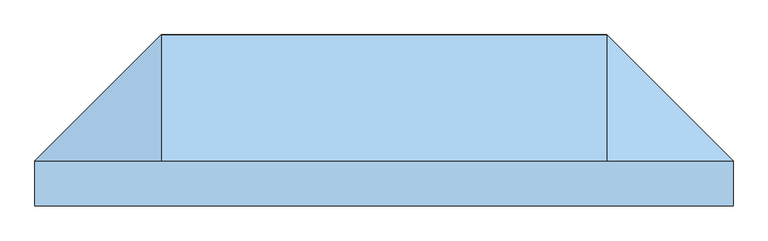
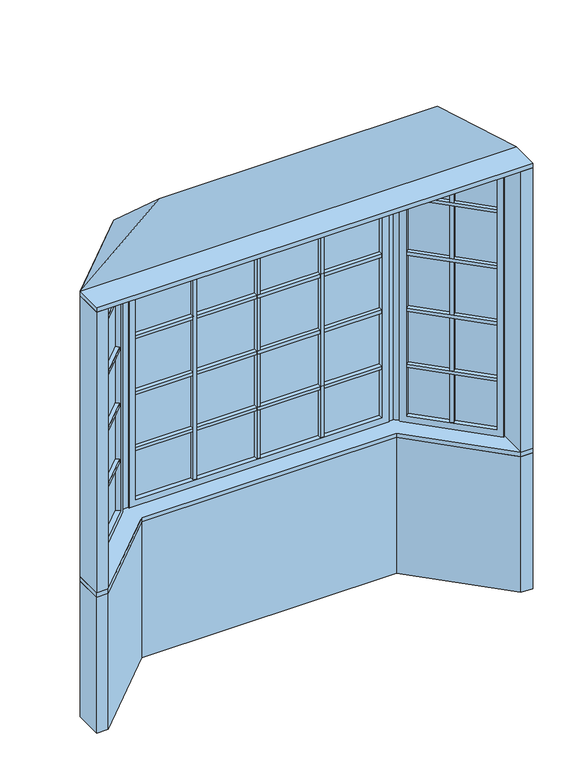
"""IFC4 building model written with IfcOpenShell, lengths in millimetres: window geometry, Pollard_Windows_Tudor Casement Bows and Bays : AML-BAY 45 AFR0616-12-500_GC."""

from ifc_helpers import new_model, si_unit, frame, origin, origin_with_axes, place, context, project, spatial, polyline, outline, extrude, faceted_brep, source, transform, mapped, element, save


def window_401ed5cd(model_context):
    return source(origin(), model_context, "Body", "SolidModel", [
        extrude(outline(polyline([(809.3614193, 437.1108753), (1117.1725202, 129.2997743), (1101.616171, 113.7434252), (793.8050701, 421.5545261), (809.3614193, 437.1108753)])), frame((0.0, 0.0, 1110.998), z_axis=(0.0, 0.0, 1.0), x_axis=(1.0, 0.0, 0.0)), (0.0, 0.0, 1.0), 18.0),
        extrude(outline(polyline([(790.2129677, 417.9624236), (1098.0240686, 110.1513227), (1082.4677194, 94.5949735), (774.6566185, 402.4060744), (790.2129677, 417.9624236)])), frame((0.0, 0.0, 1110.998), z_axis=(0.0, 0.0, 1.0), x_axis=(1.0, 0.0, 0.0)), (0.0, 0.0, 1.0), 18.0),
        extrude(outline(polyline([(809.3614193, 437.1108753), (1117.1725202, 129.2997743), (1101.616171, 113.7434252), (793.8050701, 421.5545261), (809.3614193, 437.1108753)])), frame((0.0, 0.0, 1430.998), z_axis=(0.0, 0.0, 1.0), x_axis=(1.0, 0.0, 0.0)), (0.0, 0.0, 1.0), 18.0),
        extrude(outline(polyline([(790.2129677, 417.9624236), (1098.0240686, 110.1513227), (1082.4677194, 94.5949735), (774.6566185, 402.4060744), (790.2129677, 417.9624236)])), frame((0.0, 0.0, 1430.998), z_axis=(0.0, 0.0, 1.0), x_axis=(1.0, 0.0, 0.0)), (0.0, 0.0, 1.0), 18.0),
        extrude(outline(polyline([(809.3614193, 437.1108753), (1117.1725202, 129.2997743), (1101.616171, 113.7434252), (793.8050701, 421.5545261), (809.3614193, 437.1108753)])), frame((0.0, 0.0, 1750.998), z_axis=(0.0, 0.0, 1.0), x_axis=(1.0, 0.0, 0.0)), (0.0, 0.0, 1.0), 18.0),
        extrude(outline(polyline([(790.2129677, 417.9624236), (1098.0240686, 110.1513227), (1082.4677194, 94.5949735), (774.6566185, 402.4060744), (790.2129677, 417.9624236)])), frame((0.0, 0.0, 1750.998), z_axis=(0.0, 0.0, 1.0), x_axis=(1.0, 0.0, 0.0)), (0.0, 0.0, 1.0), 18.0),
        extrude(outline(polyline([(809.3614193, 437.1108753), (1117.1725202, 129.2997743), (1101.616171, 113.7434252), (793.8050701, 421.5545261), (809.3614193, 437.1108753)])), frame((0.0, 0.0, 2070.998), z_axis=(0.0, 0.0, 1.0), x_axis=(1.0, 0.0, 0.0)), (0.0, 0.0, 1.0), 18.0),
        extrude(outline(polyline([(790.2129677, 417.9624236), (1098.0240686, 110.1513227), (1082.4677194, 94.5949735), (774.6566185, 402.4060744), (790.2129677, 417.9624236)])), frame((0.0, 0.0, 2070.998), z_axis=(0.0, 0.0, 1.0), x_axis=(1.0, 0.0, 0.0)), (0.0, 0.0, 1.0), 18.0),
        extrude(outline(polyline([(954.0745816, 261.2850146), (941.3466595, 274.0129366), (956.9030087, 289.5692858), (969.6309308, 276.8413638), (954.0745816, 261.2850146)])), frame((0.0, 0.0, 835.8628), z_axis=(0.0, 0.0, 1.0), x_axis=(1.0, 0.0, 0.0)), (0.0, 0.0, 1.0), 1528.2704),
        extrude(outline(polyline([(950.4824791, 257.6929121), (934.92613, 242.1365629), (922.1982079, 254.864485), (937.7545571, 270.4208342), (950.4824791, 257.6929121)])), frame((0.0, 0.0, 835.8628), z_axis=(0.0, 0.0, 1.0), x_axis=(1.0, 0.0, 0.0)), (0.0, 0.0, 1.0), 1528.2704),
        extrude(outline(polyline([(1110.5964271, 104.763169), (1107.0043247, 101.1710666), (781.2327115, 426.9426797), (784.824814, 430.5347822), (1110.5964271, 104.763169)])), frame((0.0, 0.0, 823.1628), z_axis=(0.0, 0.0, 1.0), x_axis=(1.0, 0.0, 0.0)), (0.0, 0.0, 1.0), 1553.6704),
        faceted_brep([(1101.616171, 113.7434252, 835.8628), (1101.616171, 113.7434252, 2364.1332), (1119.5766833, 131.7039374, 2364.1332), (1119.5766833, 131.7039374, 835.8628), (1107.0043247, 101.1710666, 823.1628), (1107.0043247, 101.1710666, 2376.8332), (1110.5964271, 104.763169, 2376.8332), (1110.5964271, 104.763169, 823.1628), (1080.0635563, 92.1908105, 835.8628), (1080.0635563, 92.1908105, 2364.1332), (1098.0240686, 110.1513227, 2364.1332), (1098.0240686, 110.1513227, 835.8628), (1144.9369265, 106.3436941, 799.998), (1144.9369265, 106.3436941, 2399.998), (1105.4237996, 66.8305672, 2399.998), (1105.4237996, 66.8305672, 799.998), (793.8050701, 421.5545261, 2364.1332), (811.7655823, 439.5150383, 2364.1332), (781.2327115, 426.9426797, 2376.8332), (784.824814, 430.5347822, 2376.8332), (772.2524554, 400.0019114, 2364.1332), (790.2129677, 417.9624236, 2364.1332), (786.4053391, 464.8752816, 2399.998), (746.8922121, 425.3621547, 2399.998), (793.8050701, 421.5545261, 835.8628), (811.7655823, 439.5150383, 835.8628), (781.2327115, 426.9426797, 823.1628), (784.824814, 430.5347822, 823.1628), (772.2524554, 400.0019114, 835.8628), (790.2129677, 417.9624236, 835.8628), (786.4053391, 464.8752816, 799.998), (746.8922121, 425.3621547, 799.998)], [[[0, 1, 2, 3]], [[4, 5, 6, 7]], [[8, 9, 10, 11]], [[12, 13, 14, 15]], [[1, 16, 17, 2]], [[5, 18, 19, 6]], [[9, 20, 21, 10]], [[13, 22, 23, 14]], [[16, 24, 25, 17]], [[18, 26, 27, 19]], [[20, 28, 29, 21]], [[22, 30, 31, 23]], [[24, 0, 3, 25]], [[7, 6, 19, 27], [1, 0, 24, 16]], [[26, 4, 7, 27]], [[5, 4, 26, 18], [11, 10, 21, 29]], [[28, 8, 11, 29]], [[15, 14, 23, 31], [9, 8, 28, 20]], [[30, 12, 15, 31]], [[13, 12, 30, 22], [3, 2, 17, 25]]]),
        extrude(outline(polyline([(352.4427, 474.8306207), (334.4427, 474.8306207), (334.4427, 496.8306207), (352.4427, 496.8306207), (352.4427, 474.8306207)])), frame((0.0, 0.0, 835.8628), z_axis=(0.0, 0.0, 1.0), x_axis=(1.0, 0.0, 0.0)), (0.0, 0.0, 1.0), 1528.2704),
        extrude(outline(polyline([(352.4427, 469.7506207), (352.4427, 447.7506207), (334.4427, 447.7506207), (334.4427, 469.7506207), (352.4427, 469.7506207)])), frame((0.0, 0.0, 835.8628), z_axis=(0.0, 0.0, 1.0), x_axis=(1.0, 0.0, 0.0)), (0.0, 0.0, 1.0), 1528.2704),
        extrude(outline(polyline([(-334.4427, 474.8306207), (-352.4427, 474.8306207), (-352.4427, 496.8306207), (-334.4427, 496.8306207), (-334.4427, 474.8306207)])), frame((0.0, 0.0, 835.8628), z_axis=(0.0, 0.0, 1.0), x_axis=(1.0, 0.0, 0.0)), (0.0, 0.0, 1.0), 1528.2704),
        extrude(outline(polyline([(-334.4427, 469.7506207), (-334.4427, 447.7506207), (-352.4427, 447.7506207), (-352.4427, 469.7506207), (-334.4427, 469.7506207)])), frame((0.0, 0.0, 835.8628), z_axis=(0.0, 0.0, 1.0), x_axis=(1.0, 0.0, 0.0)), (0.0, 0.0, 1.0), 1528.2704),
        extrude(outline(polyline([(-665.1852, 496.8306207), (665.1852, 496.8306207), (665.1852, 474.8306207), (-665.1852, 474.8306207), (-665.1852, 496.8306207)])), frame((0.0, 0.0, 1110.998), z_axis=(0.0, 0.0, 1.0), x_axis=(1.0, 0.0, 0.0)), (0.0, 0.0, 1.0), 18.0),
        extrude(outline(polyline([(-665.1852, 469.7506207), (665.1852, 469.7506207), (665.1852, 447.7506207), (-665.1852, 447.7506207), (-665.1852, 469.7506207)])), frame((0.0, 0.0, 1110.998), z_axis=(0.0, 0.0, 1.0), x_axis=(1.0, 0.0, 0.0)), (0.0, 0.0, 1.0), 18.0),
        extrude(outline(polyline([(-665.1852, 496.8306207), (665.1852, 496.8306207), (665.1852, 474.8306207), (-665.1852, 474.8306207), (-665.1852, 496.8306207)])), frame((0.0, 0.0, 1430.998), z_axis=(0.0, 0.0, 1.0), x_axis=(1.0, 0.0, 0.0)), (0.0, 0.0, 1.0), 18.0),
        extrude(outline(polyline([(-665.1852, 469.7506207), (665.1852, 469.7506207), (665.1852, 447.7506207), (-665.1852, 447.7506207), (-665.1852, 469.7506207)])), frame((0.0, 0.0, 1430.998), z_axis=(0.0, 0.0, 1.0), x_axis=(1.0, 0.0, 0.0)), (0.0, 0.0, 1.0), 18.0),
        extrude(outline(polyline([(-665.1852, 496.8306207), (665.1852, 496.8306207), (665.1852, 474.8306207), (-665.1852, 474.8306207), (-665.1852, 496.8306207)])), frame((0.0, 0.0, 1750.998), z_axis=(0.0, 0.0, 1.0), x_axis=(1.0, 0.0, 0.0)), (0.0, 0.0, 1.0), 18.0),
        extrude(outline(polyline([(-665.1852, 469.7506207), (665.1852, 469.7506207), (665.1852, 447.7506207), (-665.1852, 447.7506207), (-665.1852, 469.7506207)])), frame((0.0, 0.0, 1750.998), z_axis=(0.0, 0.0, 1.0), x_axis=(1.0, 0.0, 0.0)), (0.0, 0.0, 1.0), 18.0),
        extrude(outline(polyline([(-1117.1725202, 129.2997743), (-809.3614193, 437.1108753), (-793.8050701, 421.5545261), (-1101.616171, 113.7434252), (-1117.1725202, 129.2997743)])), frame((0.0, 0.0, 1110.998), z_axis=(0.0, 0.0, 1.0), x_axis=(1.0, 0.0, 0.0)), (0.0, 0.0, 1.0), 18.0),
        extrude(outline(polyline([(-1098.0240686, 110.1513227), (-790.2129677, 417.9624236), (-774.6566185, 402.4060744), (-1082.4677194, 94.5949735), (-1098.0240686, 110.1513227)])), frame((0.0, 0.0, 1110.998), z_axis=(0.0, 0.0, 1.0), x_axis=(1.0, 0.0, 0.0)), (0.0, 0.0, 1.0), 18.0),
        extrude(outline(polyline([(-1117.1725202, 129.2997743), (-809.3614193, 437.1108753), (-793.8050701, 421.5545261), (-1101.616171, 113.7434252), (-1117.1725202, 129.2997743)])), frame((0.0, 0.0, 1430.998), z_axis=(0.0, 0.0, 1.0), x_axis=(1.0, 0.0, 0.0)), (0.0, 0.0, 1.0), 18.0),
        extrude(outline(polyline([(-1098.0240686, 110.1513227), (-790.2129677, 417.9624236), (-774.6566185, 402.4060744), (-1082.4677194, 94.5949735), (-1098.0240686, 110.1513227)])), frame((0.0, 0.0, 1430.998), z_axis=(0.0, 0.0, 1.0), x_axis=(1.0, 0.0, 0.0)), (0.0, 0.0, 1.0), 18.0),
        extrude(outline(polyline([(-1117.1725202, 129.2997743), (-809.3614193, 437.1108753), (-793.8050701, 421.5545261), (-1101.616171, 113.7434252), (-1117.1725202, 129.2997743)])), frame((0.0, 0.0, 1750.998), z_axis=(0.0, 0.0, 1.0), x_axis=(1.0, 0.0, 0.0)), (0.0, 0.0, 1.0), 18.0),
        extrude(outline(polyline([(-1098.0240686, 110.1513227), (-790.2129677, 417.9624236), (-774.6566185, 402.4060744), (-1082.4677194, 94.5949735), (-1098.0240686, 110.1513227)])), frame((0.0, 0.0, 1750.998), z_axis=(0.0, 0.0, 1.0), x_axis=(1.0, 0.0, 0.0)), (0.0, 0.0, 1.0), 18.0),
        extrude(outline(polyline([(-1117.1725202, 129.2997743), (-809.3614193, 437.1108753), (-793.8050701, 421.5545261), (-1101.616171, 113.7434252), (-1117.1725202, 129.2997743)])), frame((0.0, 0.0, 2070.998), z_axis=(0.0, 0.0, 1.0), x_axis=(1.0, 0.0, 0.0)), (0.0, 0.0, 1.0), 18.0),
        extrude(outline(polyline([(-1098.0240686, 110.1513227), (-790.2129677, 417.9624236), (-774.6566185, 402.4060744), (-1082.4677194, 94.5949735), (-1098.0240686, 110.1513227)])), frame((0.0, 0.0, 2070.998), z_axis=(0.0, 0.0, 1.0), x_axis=(1.0, 0.0, 0.0)), (0.0, 0.0, 1.0), 18.0),
        extrude(outline(polyline([(-665.1852, 496.8306207), (665.1852, 496.8306207), (665.1852, 474.8306207), (-665.1852, 474.8306207), (-665.1852, 496.8306207)])), frame((0.0, 0.0, 2070.998), z_axis=(0.0, 0.0, 1.0), x_axis=(1.0, 0.0, 0.0)), (0.0, 0.0, 1.0), 18.0),
        extrude(outline(polyline([(-665.1852, 469.7506207), (665.1852, 469.7506207), (665.1852, 447.7506207), (-665.1852, 447.7506207), (-665.1852, 469.7506207)])), frame((0.0, 0.0, 2070.998), z_axis=(0.0, 0.0, 1.0), x_axis=(1.0, 0.0, 0.0)), (0.0, 0.0, 1.0), 18.0),
        extrude(outline(polyline([(-941.3466595, 274.0129366), (-954.0745816, 261.2850146), (-969.6309308, 276.8413638), (-956.9030087, 289.5692858), (-941.3466595, 274.0129366)])), frame((0.0, 0.0, 835.8628), z_axis=(0.0, 0.0, 1.0), x_axis=(1.0, 0.0, 0.0)), (0.0, 0.0, 1.0), 1528.2704),
        extrude(outline(polyline([(-937.7545571, 270.4208342), (-922.1982079, 254.864485), (-934.92613, 242.1365629), (-950.4824791, 257.6929121), (-937.7545571, 270.4208342)])), frame((0.0, 0.0, 835.8628), z_axis=(0.0, 0.0, 1.0), x_axis=(1.0, 0.0, 0.0)), (0.0, 0.0, 1.0), 1528.2704),
        extrude(outline(polyline([(9.0, 474.8306207), (-9.0, 474.8306207), (-9.0, 496.8306207), (9.0, 496.8306207), (9.0, 474.8306207)])), frame((0.0, 0.0, 835.8628), z_axis=(0.0, 0.0, 1.0), x_axis=(1.0, 0.0, 0.0)), (0.0, 0.0, 1.0), 1528.2704),
        extrude(outline(polyline([(9.0, 469.7506207), (9.0, 447.7506207), (-9.0, 447.7506207), (-9.0, 469.7506207), (9.0, 469.7506207)])), frame((0.0, 0.0, 835.8628), z_axis=(0.0, 0.0, 1.0), x_axis=(1.0, 0.0, 0.0)), (0.0, 0.0, 1.0), 1528.2704),
        extrude(outline(polyline([(-784.824814, 430.5347822), (-781.2327115, 426.9426797), (-1107.0043247, 101.1710666), (-1110.5964271, 104.763169), (-784.824814, 430.5347822)])), frame((0.0, 0.0, 823.1628), z_axis=(0.0, 0.0, 1.0), x_axis=(1.0, 0.0, 0.0)), (0.0, 0.0, 1.0), 1553.6704),
        faceted_brep([(-790.2129677, 417.9624236, 2364.1332), (-790.2129677, 417.9624236, 835.8628), (-772.2524554, 400.0019114, 835.8628), (-772.2524554, 400.0019114, 2364.1332), (-784.824814, 430.5347822, 2376.8332), (-784.824814, 430.5347822, 823.1628), (-781.2327115, 426.9426797, 823.1628), (-781.2327115, 426.9426797, 2376.8332), (-811.7655823, 439.5150383, 2364.1332), (-811.7655823, 439.5150383, 835.8628), (-793.8050701, 421.5545261, 835.8628), (-793.8050701, 421.5545261, 2364.1332), (-746.8922121, 425.3621547, 2399.998), (-746.8922121, 425.3621547, 799.998), (-786.4053391, 464.8752816, 799.998), (-786.4053391, 464.8752816, 2399.998), (-1098.0240686, 110.1513227, 835.8628), (-1080.0635563, 92.1908105, 835.8628), (-1110.5964271, 104.763169, 823.1628), (-1107.0043247, 101.1710666, 823.1628), (-1119.5766833, 131.7039374, 835.8628), (-1101.616171, 113.7434252, 835.8628), (-1105.4237996, 66.8305672, 799.998), (-1144.9369265, 106.3436941, 799.998), (-1098.0240686, 110.1513227, 2364.1332), (-1080.0635563, 92.1908105, 2364.1332), (-1110.5964271, 104.763169, 2376.8332), (-1107.0043247, 101.1710666, 2376.8332), (-1119.5766833, 131.7039374, 2364.1332), (-1101.616171, 113.7434252, 2364.1332), (-1105.4237996, 66.8305672, 2399.998), (-1144.9369265, 106.3436941, 2399.998)], [[[0, 1, 2, 3]], [[4, 5, 6, 7]], [[8, 9, 10, 11]], [[12, 13, 14, 15]], [[1, 16, 17, 2]], [[5, 18, 19, 6]], [[9, 20, 21, 10]], [[13, 22, 23, 14]], [[16, 24, 25, 17]], [[18, 26, 27, 19]], [[20, 28, 29, 21]], [[22, 30, 31, 23]], [[13, 12, 30, 22], [3, 2, 17, 25]], [[24, 0, 3, 25]], [[7, 6, 19, 27], [1, 0, 24, 16]], [[26, 4, 7, 27]], [[5, 4, 26, 18], [11, 10, 21, 29]], [[28, 8, 11, 29]], [[15, 14, 23, 31], [9, 8, 28, 20]], [[30, 12, 15, 31]]]),
        extrude(outline(polyline([(677.8852, 474.8306207), (677.8852, 469.7506207), (-677.8852, 469.7506207), (-677.8852, 474.8306207), (677.8852, 474.8306207)])), frame((0.0, 0.0, 823.1628), z_axis=(0.0, 0.0, 1.0), x_axis=(1.0, 0.0, 0.0)), (0.0, 0.0, 1.0), 1553.6704),
        faceted_brep([(665.1852, 474.8306207, 835.8628), (665.1852, 474.8306207, 2364.1332), (665.1852, 500.2306207, 2364.1332), (665.1852, 500.2306207, 835.8628), (677.8852, 469.7506207, 823.1628), (677.8852, 469.7506207, 2376.8332), (677.8852, 474.8306207, 2376.8332), (677.8852, 474.8306207, 823.1628), (665.1852, 444.3506207, 835.8628), (665.1852, 444.3506207, 2364.1332), (665.1852, 469.7506207, 2364.1332), (665.1852, 469.7506207, 835.8628), (701.05, 500.2306207, 799.998), (701.05, 500.2306207, 2399.998), (701.05, 444.3506207, 2399.998), (701.05, 444.3506207, 799.998), (-665.1852, 474.8306207, 2364.1332), (-665.1852, 500.2306207, 2364.1332), (-677.8852, 469.7506207, 2376.8332), (-677.8852, 474.8306207, 2376.8332), (-665.1852, 444.3506207, 2364.1332), (-665.1852, 469.7506207, 2364.1332), (-701.05, 500.2306207, 2399.998), (-701.05, 444.3506207, 2399.998), (-665.1852, 474.8306207, 835.8628), (-665.1852, 500.2306207, 835.8628), (-677.8852, 469.7506207, 823.1628), (-677.8852, 474.8306207, 823.1628), (-665.1852, 444.3506207, 835.8628), (-665.1852, 469.7506207, 835.8628), (-701.05, 500.2306207, 799.998), (-701.05, 444.3506207, 799.998)], [[[0, 1, 2, 3]], [[4, 5, 6, 7]], [[8, 9, 10, 11]], [[12, 13, 14, 15]], [[1, 16, 17, 2]], [[5, 18, 19, 6]], [[9, 20, 21, 10]], [[13, 22, 23, 14]], [[16, 24, 25, 17]], [[18, 26, 27, 19]], [[20, 28, 29, 21]], [[22, 30, 31, 23]], [[13, 12, 30, 22], [3, 2, 17, 25]], [[24, 0, 3, 25]], [[7, 6, 19, 27], [1, 0, 24, 16]], [[26, 4, 7, 27]], [[5, 4, 26, 18], [11, 10, 21, 29]], [[28, 8, 11, 29]], [[15, 14, 23, 31], [9, 8, 28, 20]], [[30, 12, 15, 31]]]),
        faceted_brep([(1176.5, 74.7806207, 2425.398), (-1176.5, 74.7806207, 2425.398), (-751.05, 500.2306207, 2425.398), (751.05, 500.2306207, 2425.398), (-751.05, 74.7806207, 2806.398), (751.05, 74.7806207, 2806.398)], [[[0, 1, 2, 3]], [[1, 4, 2]], [[2, 4, 5, 3]], [[3, 5, 0]], [[0, 5, 4, 1]]]),
        extrude(outline(polyline([(-1176.5, -77.6193793), (-1176.5, 74.7806207), (-751.05, 500.2306207), (751.05, 500.2306207), (1176.5, 74.7806207), (1176.5, -77.6193793), (-1176.5, -77.6193793)])), frame((0.0, 0.0, 2399.998), z_axis=(0.0, 0.0, 1.0), x_axis=(1.0, 0.0, 0.0)), (0.0, 0.0, 1.0), 25.4),
        extrude(outline(polyline([(-1176.5, 74.7806207), (-1144.9369265, 106.3436941), (-1113.3738531, 74.7806207), (-1113.3738531, -77.6193793), (-1176.5, -77.6193793), (-1176.5, 74.7806207)])), frame((0.0, 0.0, 799.998), z_axis=(0.0, 0.0, 1.0), x_axis=(1.0, 0.0, 0.0)), (0.0, 0.0, 1.0), 1600.0),
        extrude(outline(polyline([(1176.5, -77.6193793), (1113.3738531, -77.6193793), (1113.3738531, 74.7806207), (1144.9369265, 106.3436941), (1176.5, 74.7806207), (1176.5, -77.6193793)])), frame((0.0, 0.0, 799.998), z_axis=(0.0, 0.0, 1.0), x_axis=(1.0, 0.0, 0.0)), (0.0, 0.0, 1.0), 1600.0),
        extrude(outline(polyline([(751.05, 500.2306207), (786.4053391, 464.8752816), (751.05, 429.5199425), (730.3393219, 450.2306207), (701.05, 450.2306207), (701.05, 500.2306207), (751.05, 500.2306207)])), frame((0.0, 0.0, 799.998), z_axis=(0.0, 0.0, 1.0), x_axis=(1.0, 0.0, 0.0)), (0.0, 0.0, 1.0), 1600.0),
        extrude(outline(polyline([(-751.05, 500.2306207), (-701.05, 500.2306207), (-701.05, 450.2306207), (-730.3393219, 450.2306207), (-751.05, 429.5199425), (-786.4053391, 464.8752816), (-751.05, 500.2306207)])), frame((0.0, 0.0, 799.998), z_axis=(0.0, 0.0, 1.0), x_axis=(1.0, 0.0, 0.0)), (0.0, 0.0, 1.0), 1600.0),
        extrude(outline(polyline([(-751.05, 500.2306207), (751.05, 500.2306207), (1176.5, 74.7806207), (1176.5, -77.6193793), (1113.3738531, -77.6193793), (687.9238531, 347.8306207), (-687.9238531, 347.8306207), (-1113.3738531, -77.6193793), (-1176.5, -77.6193793), (-1176.5, 74.7806207), (-751.05, 500.2306207)])), frame((0.0, 0.0, 774.598), z_axis=(0.0, 0.0, 1.0), x_axis=(1.0, 0.0, 0.0)), (0.0, 0.0, 1.0), 25.4),
        extrude(outline(polyline([(-1176.5, 74.7806207), (-751.05, 500.2306207), (751.05, 500.2306207), (1176.5, 74.7806207), (1176.5, -77.6193793), (1113.3738531, -77.6193793), (687.9238531, 347.8306207), (-687.9238531, 347.8306207), (-1113.3738531, -77.6193793), (-1176.5, -77.6193793), (-1176.5, 74.7806207)])), origin_with_axes(), (0.0, 0.0, 1.0), 774.598),
    ])


if __name__ == "__main__":
    model = new_model("IFC4")
    model_context = context("Model", 3, world=origin())
    ifc_project = project(units=[si_unit("LENGTHUNIT", "METRE", prefix="MILLI")], contexts=[model_context])
    site = spatial("IfcSite", under=ifc_project)
    building = spatial("IfcBuilding", under=site)
    placement = place(None, origin())
    window_shape = window_401ed5cd(model_context)
    element("IfcWindow", 1, ObjectType="Pollard_Windows_Tudor Casement Bows and Bays : AML-BAY 45 AFR0616-12-500_GC", at=placement, inside=building, context=model_context, shape_type="MappedRepresentation", body=[
        mapped(window_shape, transform((0.0, 0.0, 0.0), x_axis=(1.0, 0.0, 0.0), y_axis=(0.0, 1.0, 0.0), z_axis=(0.0, 0.0, 1.0))),
    ])
    save(model, "model.ifc")
